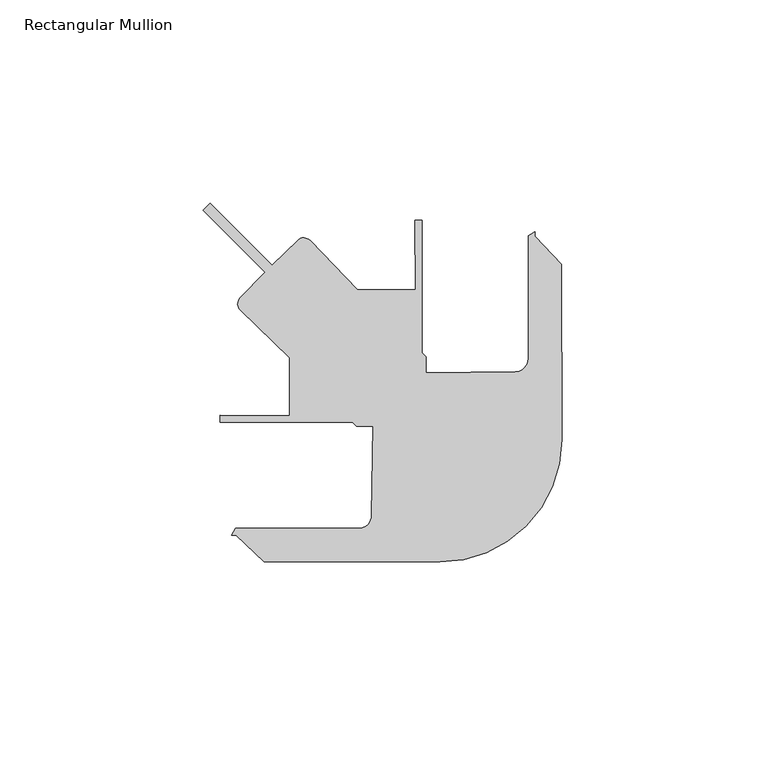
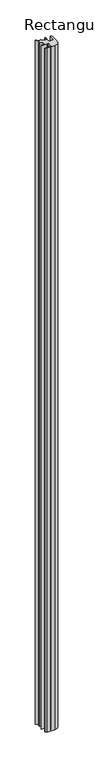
"""IFC4 building model written with IfcOpenShell, lengths in millimetres: member geometry, Rectangular Mullion : Danpal_VRS_Interal-Cor-Mullion."""

from ifc_helpers import new_model, si_unit, point, frame, frame_2d, origin, place, context, project, spatial, polyline, circle_curve, trimmed, segment, composite_curve, outline, extrude, source, transform, mapped, element, save


def rectangular_mullion_c9690b13(model_context):
    return source(origin(), model_context, "Body", "SweptSolid", [
        extrude(outline(composite_curve([segment(polyline([(-50.2286778, 59.1615641), (-35.9910995, 59.1615172), (-36.0818817, 76.2803961), (-34.3611193, 76.2803959), (-34.3611228, 43.7461608), (-33.3895258, 42.7414473), (-33.3993608, 38.7101357), (-11.4537301, 38.9923601)]), True, "CONTINUOUS"), segment(trimmed(circle_curve(frame_2d((-11.4954398, 42.235689)), 3.2435972), [point((-11.4537301, 38.9923601))], [point((-8.2518427, 42.235689))], True, "CARTESIAN"), True, "CONTINUOUS"), segment(polyline([(-8.2518427, 42.235689), (-8.2518426, 72.5100415), (-6.6205953, 73.4427343), (-6.6205735, 72.3413523), (-0.0270665, 65.5231082), (-5.9e-06, 22.2276357)]), True, "CONTINUOUS"), segment(trimmed(circle_curve(frame_2d((-30.0, 22.208885)), 30.0), [point((-5.9e-06, 22.2276357))], [point((-30.0187507, -7.7911092))], False, "CARTESIAN"), True, "CONTINUOUS"), segment(polyline([(-30.0187507, -7.7911092), (-73.3142232, -7.7640485), (-80.1324673, -1.1705415), (-81.2338493, -1.1705197), (-80.3011566, 0.4607276), (-50.026804, 0.4607276)]), True, "CONTINUOUS"), segment(trimmed(circle_curve(frame_2d((-50.026804, 3.7043248)), 3.2435972), [point((-50.026804, 0.4607276))], [point((-46.783475, 3.662615))], True, "CARTESIAN"), True, "CONTINUOUS"), segment(polyline([(-46.783475, 3.662615), (-46.5012507, 25.6082458), (-50.5325623, 25.5984108), (-51.5372758, 26.5700078), (-84.0715109, 26.5700043), (-84.0715111, 28.2907666), (-66.9526323, 28.1999845), (-66.9526792, 42.4375627), (-79.1180096, 54.200189)]), True, "CONTINUOUS"), segment(trimmed(circle_curve(frame_2d((-77.6582831, 55.7098905)), 2.1), [point((-79.1180096, 54.200189))], [point((-79.1679846, 57.169617))], False, "CARTESIAN"), True, "CONTINUOUS"), segment(polyline([(-79.1679846, 57.169617), (-73.0213956, 63.52664), (-88.3048187, 78.8100631), (-86.5727553, 80.4852808), (-71.3177551, 65.2302806), (-64.960732, 71.3768696)]), True, "CONTINUOUS"), segment(trimmed(circle_curve(frame_2d((-63.5010056, 69.8671681)), 2.1), [point((-64.960732, 71.3768696))], [point((-61.991304, 71.3268946))], False, "CARTESIAN"), True, "CONTINUOUS"), segment(polyline([(-61.991304, 71.3268946), (-50.2286778, 59.1615641)]), True, "CONTINUOUS")], self_intersect=False)), frame((0.0, 0.0, -4000.0), z_axis=(0.0, 0.0, 1.0), x_axis=(1.0, 0.0, 0.0)), (0.0, 0.0, 1.0), 4000.0),
    ])


if __name__ == "__main__":
    model = new_model("IFC4")
    model_context = context("Model", 3, world=origin())
    ifc_project = project(units=[si_unit("LENGTHUNIT", "METRE", prefix="MILLI")], contexts=[model_context])
    site = spatial("IfcSite", under=ifc_project)
    building = spatial("IfcBuilding", under=site)
    placement = place(None, origin())
    rectangular_mullion_shape = rectangular_mullion_c9690b13(model_context)
    element("IfcMember", 1, ObjectType="Rectangular Mullion : Danpal_VRS_Interal-Cor-Mullion", at=placement, inside=building, context=model_context, shape_type="MappedRepresentation", body=[
        mapped(rectangular_mullion_shape, transform((0.0, 0.0, 0.0), x_axis=(1.0, 0.0, 0.0), y_axis=(0.0, 1.0, 0.0), z_axis=(0.0, 0.0, 1.0))),
    ])
    save(model, "model.ifc")
